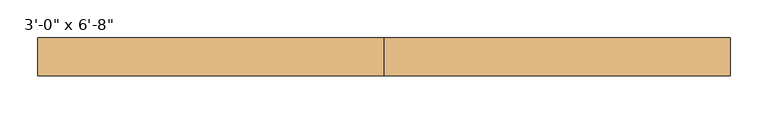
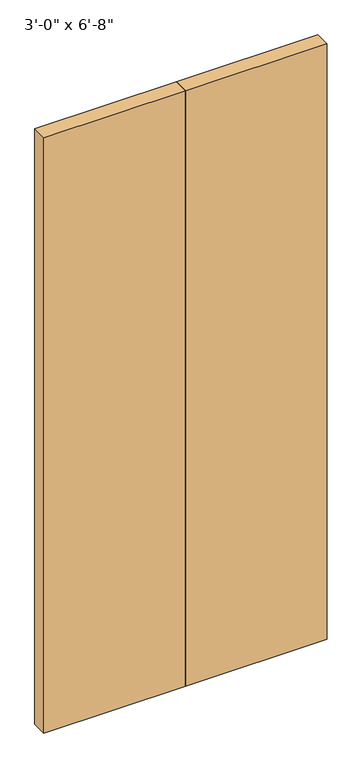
"""IFC4 building model written with IfcOpenShell, lengths in millimetres: door geometry."""

from ifc_helpers import new_model, si_unit, origin, origin_with_axes, place, context, project, spatial, polyline, outline, extrude, source, transform, mapped, element, save


def door_04865f0e(model_context):
    return source(origin(), model_context, "Body", "SweptSolid", [
        extrude(outline(polyline([(0.0, 57.15), (457.2, 57.15), (457.2, 7.15), (0.0, 7.15), (0.0, 57.15)])), origin_with_axes(), (0.0, 0.0, 1.0), 2032.0),
        extrude(outline(polyline([(-457.2, 57.15), (0.0, 57.15), (0.0, 7.15), (-457.2, 7.15), (-457.2, 57.15)])), origin_with_axes(), (0.0, 0.0, 1.0), 2032.0),
    ])


if __name__ == "__main__":
    model = new_model("IFC4")
    model_context = context("Model", 3, world=origin())
    ifc_project = project(units=[si_unit("LENGTHUNIT", "METRE", prefix="MILLI")], contexts=[model_context])
    site = spatial("IfcSite", under=ifc_project)
    building = spatial("IfcBuilding", under=site)
    placement = place(None, origin())
    door_shape = door_04865f0e(model_context)
    element("IfcDoor", 1, ObjectType="Planitar - Double Door_Flush Panel : 3'-0\" x 6'-8\"", at=placement, inside=building, context=model_context, shape_type="MappedRepresentation", body=[
        mapped(door_shape, transform((0.0, 0.0, 0.0), x_axis=(1.0, 0.0, 0.0), y_axis=(0.0, 1.0, 0.0), z_axis=(0.0, 0.0, 1.0))),
    ])
    save(model, "model.ifc")
